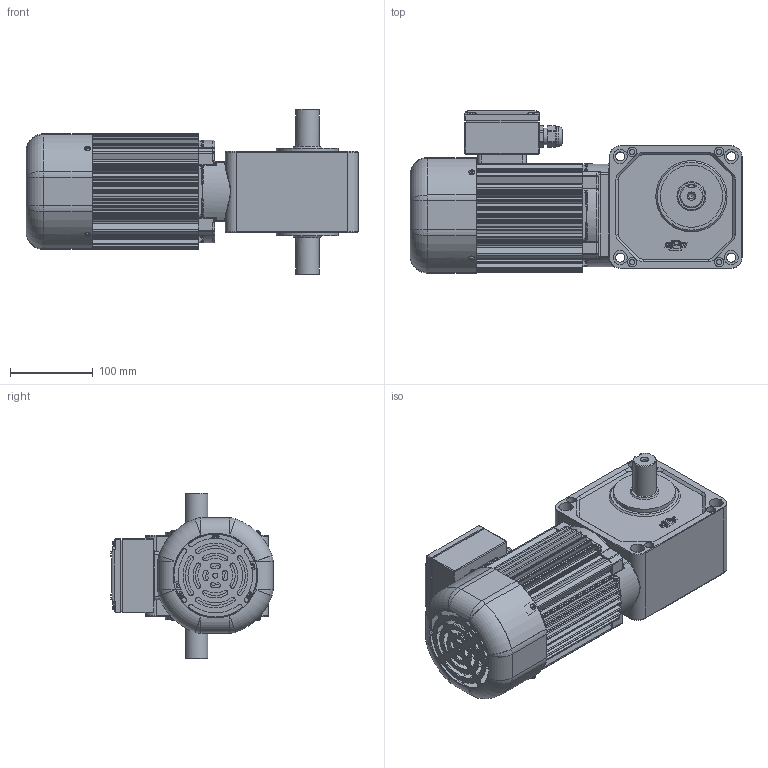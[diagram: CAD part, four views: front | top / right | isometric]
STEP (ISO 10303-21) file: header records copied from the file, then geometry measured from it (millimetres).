
FILE_DESCRIPTION(/* description */ (''),/* implementation_level */ '2;1');
FILE_NAME(/* name */ 'Z:\동력 3D 파일\PCS28B_0.4kW_Brake_3D.stp',/* time_stamp */ '2021-11-09T11:16:50+09:00',/* author */ ('jaebok'),/* organization */ (''),/* preprocessor_version */ 'ST-DEVELOPER v18.1',/* originating_system */ 'Autodesk Inventor 2022',/* authorisation */ '');
FILE_SCHEMA (('AUTOMOTIVE_DESIGN { 1 0 10303 214 3 1 1 }'));
Products named in the file (1): 부품50
Bounding box: 400.5 x 195.7 x 200 mm (x, y, z)
Volume: 2503347.4 mm3; surface area: 650235.1 mm2
Topology: 2 solids, 18 shells, 2042 faces, 5202 edges, 3254 vertices
Faces by surface type: plane 910, cylinder 784, cone 111, torus 107, bspline 102, sphere 28
Full cylindrical faces by diameter (mm): 1.5 x2, 2 x4, 3 x8, 3.242 x5, 3.25 x1, 3.3 x4, 3.6 x4, 3.8 x3, 4 x25, 4.2 x8, 5 x19, 5.8 x2, 5.9 x3, 6 x18, 6.4 x1, 6.5 x10, 6.647 x2, 7 x12, 7.9 x6, 8 x3, 8.5 x1, 8.7 x1, 10 x1, 11 x8, 12.5 x1, 15 x1, 17 x12, 18 x1, 20 x2, 21 x1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
Entity records: 69379 total; most frequent: CARTESIAN_POINT 17746, DIRECTION 10819, ORIENTED_EDGE 10272, EDGE_CURVE 5136, AXIS2_PLACEMENT_3D 4146, VERTEX_POINT 3250, LINE 2527, VECTOR 2527
